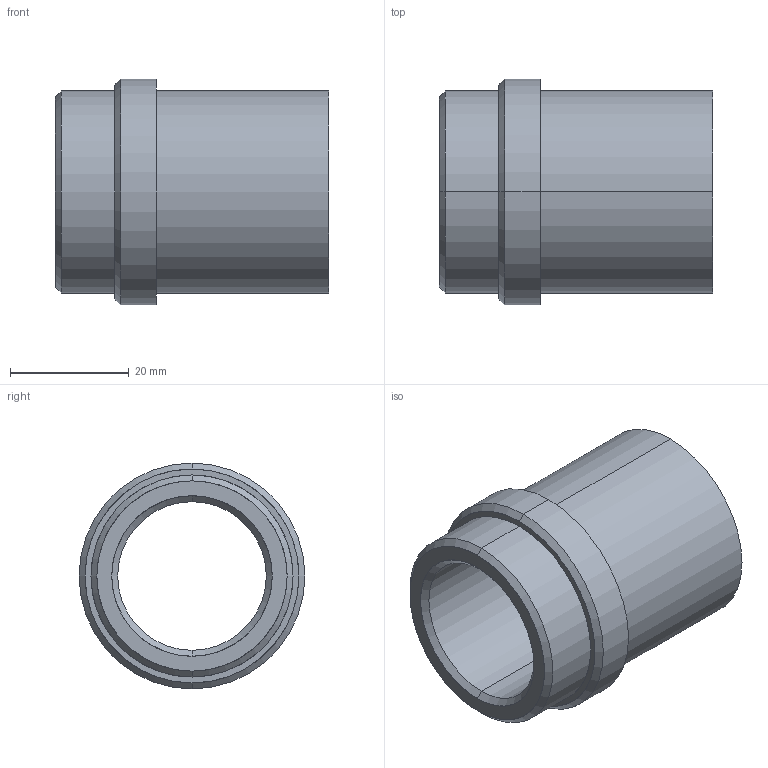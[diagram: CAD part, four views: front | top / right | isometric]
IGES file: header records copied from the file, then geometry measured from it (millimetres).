
Start section: START RECORD GO HERE.
Global section: file name: 358-25x46.igs; native system: DASSAULT SYSTEMES CATIA V5 R20 - www.3ds.com; preprocessor: CATIA Version 5 Release 20 ; author: Utente; organization: NB04-ASUS; date: 20210409.152327; units: millimetre
Bounding box: 46 x 38 x 38 mm (x, y, z)
Surface area: 9655.3 mm2 (no closed solid volume)
Topology: 0 solids, 0 shells, 20 faces, 128 edges, 128 vertices
Faces by surface type: revolution 16, plane 4
